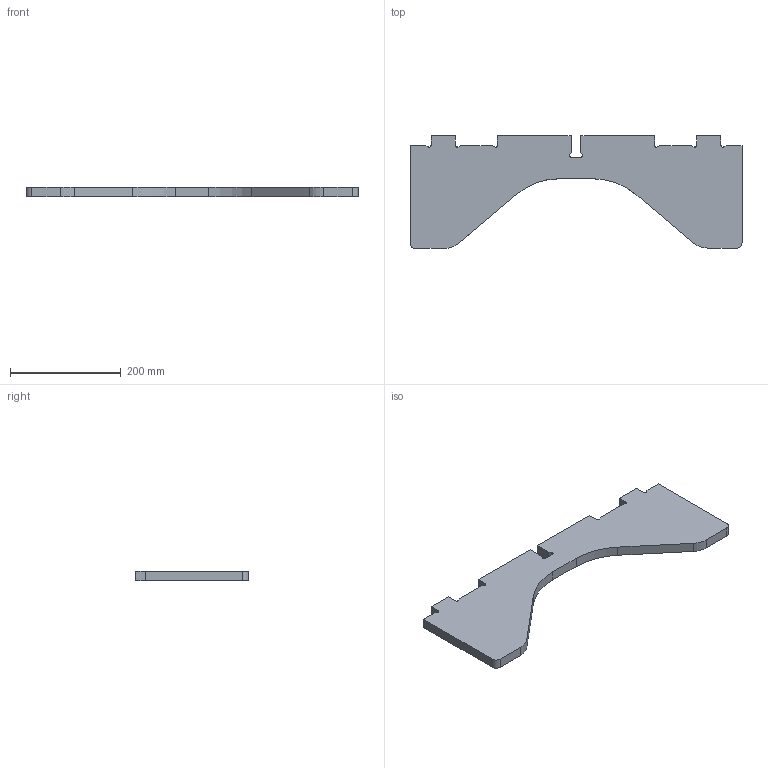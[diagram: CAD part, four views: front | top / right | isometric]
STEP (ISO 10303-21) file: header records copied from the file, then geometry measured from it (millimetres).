
FILE_DESCRIPTION (( 'STEP AP214' ), '1' );
FILE_NAME ('pied-de-lit.STEP', '2018-04-07T05:34:09', ( '' ), ( '' ), 'SwSTEP 2.0', 'SolidWorks 2017', '' );
FILE_SCHEMA (( 'AUTOMOTIVE_DESIGN' ));
Length unit declared in the file: millimetre
Products named in the file (1): pied-de-lit
Bounding box: 600 x 204 x 18 mm (x, y, z)
Volume: 1443278.7 mm3; surface area: 193679.6 mm2
Topology: 1 solids, 1 shells, 49 faces, 141 edges, 94 vertices
Faces by surface type: plane 34, cylinder 15
Entity records: 1639 total; most frequent: CARTESIAN_POINT 285, ORIENTED_EDGE 282, DIRECTION 271, EDGE_CURVE 141, VECTOR 111, LINE 111, VERTEX_POINT 94, AXIS2_PLACEMENT_3D 80
